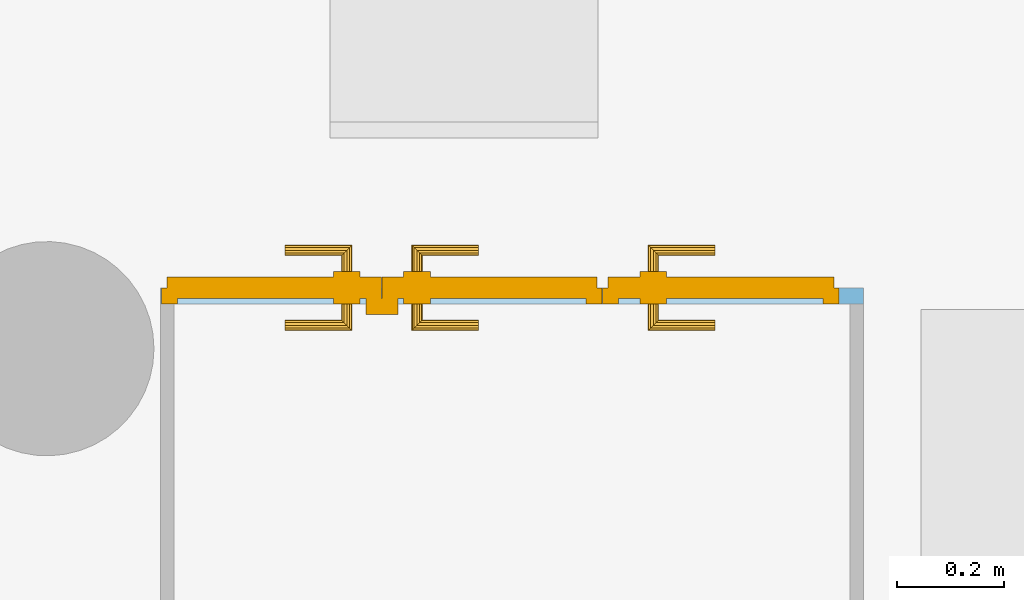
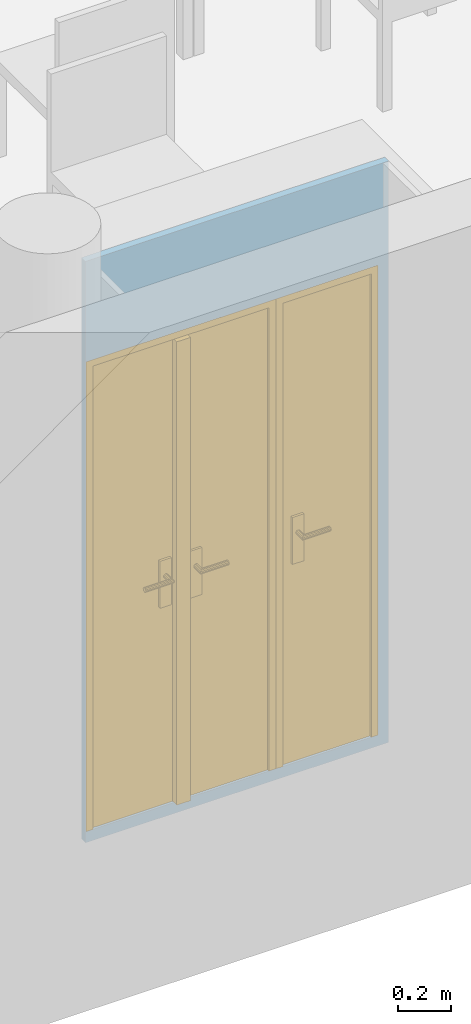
"""IFC4 building model written with IfcOpenShell, lengths in metres."""

from ifc_helpers import new_model, entity, si_unit, converted_unit, derived_unit, frame, frame_2d, origin, origin_with_axes, place, context, subcontext, project, spatial, polyline, rectangle, outline, extrude, faceted_brep, source, transform, mapped, material, layer, layer_set, layer_usage, element, fill, save


model = new_model("IFC4")

# Units and contexts
model_context = context("Model", 3, precision=1e-05, world=origin())
body_context = subcontext(model_context, "Body", "Model", "MODEL_VIEW")
ifc_project = project(units=[si_unit("LENGTHUNIT", "METRE"), si_unit("AREAUNIT", "SQUARE_METRE"), si_unit("VOLUMEUNIT", "CUBIC_METRE"), si_unit("MASSUNIT", "GRAM", prefix="KILO"), converted_unit("PLANEANGLEUNIT", "DEGREE", entity("IfcPlaneAngleMeasure", 0.0174532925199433), si_unit("PLANEANGLEUNIT", "RADIAN"), dimensions=[0, 0, 0, 0, 0, 0, 0]), derived_unit("THERMALTRANSMITTANCEUNIT", [(si_unit("POWERUNIT", "WATT"), 1), (si_unit("THERMODYNAMICTEMPERATUREUNIT", "KELVIN"), -1), (si_unit("LENGTHUNIT", "METRE"), -2)]), derived_unit("VOLUMETRICFLOWRATEUNIT", [(si_unit("LENGTHUNIT", "METRE"), 3), (converted_unit("TIMEUNIT", "hour", entity("IfcTimeMeasure", 3600.0), si_unit("TIMEUNIT", "SECOND"), dimensions=[0, 0, 1, 0, 0, 0, 0]), -1), (si_unit("LENGTHUNIT", "METRE"), -1)])], contexts=[model_context])

# Building, storeys
building_placement = place(None, origin())
building = spatial("IfcBuilding", under=ifc_project, at=building_placement, Name="HABITATGE PLURIFAMILIAR", CompositionType="ELEMENT")
storey_1_placement = place(building_placement, frame((0.0, 0.0, 18.29)))
storey_1 = spatial("IfcBuildingStorey", under=building, at=storey_1_placement, Name="PLANTA CINQUENA", CompositionType="ELEMENT", Elevation=18.29)
storey_2_placement = place(storey_1_placement, frame((0.0, 0.0, 15.28)))
storey_2 = spatial("IfcBuildingStorey", under=storey_1, at=storey_2_placement, Name="NOU", CompositionType="PARTIAL")

# Wall, openings, doors
ifc_material = material()
ifc_layer = layer(ifc_material, 0.03)
ifc_layer_set = layer_set([ifc_layer])
ifc_layer_usage = layer_usage(ifc_layer_set, "AXIS2", "POSITIVE", 0.0)
wall_placement = place(storey_2_placement, frame((407.361610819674, 13.7631365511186, -15.33), z_axis=(0.0, 0.0, 1.0), x_axis=(-1.0, 0.0, 0.0)))
wall = element("IfcWall", 1, at=wall_placement, inside=storey_2, material=ifc_layer_usage, Name="Evans PA", context=body_context, shape_type="SweptSolid", body=[
    extrude(rectangle(XDim=1.31229787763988, YDim=0.03, at=frame_2d((0.656148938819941, 0.015), x_axis=(1.0, 0.0))), origin_with_axes(), (0.0, 0.0, 1.0), 2.66),
])
opening_1_placement = place(wall_placement, frame((0.487834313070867, 0.0, 0.05), z_axis=(0.0, 1.0, 0.0), x_axis=(0.0, 0.0, 1.0)))
opening_1 = element("IfcOpeningElement", 2, at=opening_1_placement, cuts=wall, Name="Vano de puerta PA", ObjectType="Opening", context=body_context, shape_type="SweptSolid", body=[
    extrude(outline(polyline([(2.15, 0.822674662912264), (2.15, 0.0), (0.0, 0.0), (0.0, 0.822674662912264), (2.15, 0.822674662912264)])), origin_with_axes(), (0.0, 0.0, 1.0), 0.03),
])
opening_2_placement = place(wall_placement, frame((0.0452878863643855, 0.0, 0.05), z_axis=(0.0, 1.0, 0.0), x_axis=(0.0, 0.0, 1.0)))
opening_2 = element("IfcOpeningElement", 3, at=opening_2_placement, cuts=wall, Name="Vano de puerta PA", ObjectType="Opening", context=body_context, shape_type="SweptSolid", body=[
    extrude(outline(polyline([(2.15, 0.441930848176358), (2.15, 0.0), (0.0, 0.0), (0.0, 0.441930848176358), (2.15, 0.441930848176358)])), origin_with_axes(), (0.0, 0.0, 1.0), 0.03),
])
shared_shape_1 = source(origin_with_axes(), body_context, "Body", "Brep", [
    faceted_brep([(0.822674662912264, 0.03, 2.15), (0.792674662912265, 0.03, 2.15), (0.792674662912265, 0.03, 0.0), (0.822674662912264, 0.03, 0.0), (0.822674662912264, 0.0, 0.0), (0.792674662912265, 0.0, 0.0), (0.792674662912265, 0.0, 2.15), (0.822674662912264, 0.0, 2.15)], [[[0, 1, 2, 3]], [[4, 5, 6, 7]], [[3, 4, 7, 0]], [[2, 5, 4, 3]], [[1, 6, 5, 2]], [[0, 7, 6, 1]]], orient=[[False], [False], [False], [False], [False], [False]]),
    faceted_brep([(0.03, 0.03, 2.15), (0.0, 0.03, 2.15), (0.0, 0.03, 0.0), (0.03, 0.03, 0.0), (0.03, 0.0, 0.0), (0.0, 0.0, 0.0), (0.0, 0.0, 2.15), (0.03, 0.0, 2.15)], [[[0, 1, 2, 3]], [[4, 5, 6, 7]], [[3, 4, 7, 0]], [[2, 5, 4, 3]], [[1, 6, 5, 2]], [[0, 7, 6, 1]]], orient=[[False], [False], [False], [False], [False], [False]]),
    faceted_brep([(0.792674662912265, 0.03, 2.15), (0.03, 0.03, 2.15), (0.03, 0.03, 2.12), (0.792674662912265, 0.03, 2.12), (0.792674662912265, 0.0, 2.12), (0.03, 0.0, 2.12), (0.03, 0.0, 2.15), (0.792674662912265, 0.0, 2.15)], [[[0, 1, 2, 3]], [[4, 5, 6, 7]], [[3, 4, 7, 0]], [[2, 5, 4, 3]], [[1, 6, 5, 2]], [[0, 7, 6, 1]]], orient=[[False], [False], [False], [False], [False], [False]]),
    faceted_brep([(0.812674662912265, 0.05, 2.14), (0.411837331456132, 0.05, 2.14), (0.411837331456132, 0.05, 0.0), (0.812674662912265, 0.05, 0.0), (0.812674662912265, 0.01, 0.0), (0.411837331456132, 0.01, 0.0), (0.411837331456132, 0.01, 2.14), (0.812674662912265, 0.01, 2.14)], [[[0, 1, 2, 3]], [[4, 5, 6, 7]], [[3, 4, 7, 0]], [[2, 5, 4, 3]], [[1, 6, 5, 2]], [[0, 7, 6, 1]]], orient=[[False], [False], [False], [False], [False], [False]]),
    faceted_brep([(0.441837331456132, 0.01, 2.12), (0.381837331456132, 0.01, 2.12), (0.381837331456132, 0.01, 0.0), (0.441837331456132, 0.01, 0.0), (0.441837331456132, -0.02, 0.0), (0.381837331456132, -0.02, 0.0), (0.381837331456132, -0.02, 2.12), (0.441837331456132, -0.02, 2.12)], [[[0, 1, 2, 3]], [[4, 5, 6, 7]], [[3, 4, 7, 0]], [[2, 5, 4, 3]], [[1, 6, 5, 2]], [[0, 7, 6, 1]]], orient=[[False], [False], [False], [False], [False], [False]]),
    faceted_brep([(0.50183733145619, 0.01, 1.125), (0.451837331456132, 0.01, 1.125), (0.451837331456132, 0.01, 0.91), (0.50183733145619, 0.01, 0.91), (0.50183733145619, 0.0, 0.91), (0.451837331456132, 0.0, 0.91), (0.451837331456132, 0.0, 1.125), (0.50183733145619, 0.0, 1.125)], [[[0, 1, 2, 3]], [[4, 5, 6, 7]], [[3, 4, 7, 0]], [[2, 5, 4, 3]], [[1, 6, 5, 2]], [[0, 7, 6, 1]]], orient=[[False], [False], [False], [False], [False], [False]]),
    faceted_brep([(0.476837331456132, 0.0, 1.06), (0.471837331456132, 0.0, 1.05866025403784), (0.46817707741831, 0.0, 1.055), (0.466837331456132, 0.0, 1.05), (0.46817707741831, 0.0, 1.045), (0.471837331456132, 0.0, 1.04133974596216), (0.476837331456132, 0.0, 1.04), (0.481837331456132, 0.0, 1.04133974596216), (0.485497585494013, 0.0, 1.045), (0.486837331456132, 0.0, 1.05), (0.485497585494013, 0.0, 1.055), (0.481837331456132, 0.0, 1.05866025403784), (0.476837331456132, -0.04, 1.06), (0.471837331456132, -0.045, 1.05866025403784), (0.46817707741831, -0.0486602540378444, 1.055), (0.466837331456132, -0.05, 1.05), (0.46817707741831, -0.0486602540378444, 1.045), (0.471837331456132, -0.045, 1.04133974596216), (0.476837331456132, -0.04, 1.04), (0.481837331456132, -0.035, 1.04133974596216), (0.485497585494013, -0.0313397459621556, 1.045), (0.486837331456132, -0.03, 1.05), (0.485497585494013, -0.0313397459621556, 1.055), (0.481837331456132, -0.035, 1.05866025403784), (0.59183733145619, -0.04, 1.06), (0.59183733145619, -0.035, 1.05866025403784), (0.59183733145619, -0.0313397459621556, 1.055), (0.59183733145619, -0.03, 1.05), (0.59183733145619, -0.0313397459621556, 1.045), (0.59183733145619, -0.035, 1.04133974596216), (0.59183733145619, -0.04, 1.04), (0.59183733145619, -0.045, 1.04133974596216), (0.59183733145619, -0.0486602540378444, 1.045), (0.59183733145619, -0.05, 1.05), (0.59183733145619, -0.0486602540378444, 1.055), (0.59183733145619, -0.045, 1.05866025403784)], [[[0, 1, 2, 3, 4, 5, 6, 7, 8, 9, 10, 11]], [[0, 12, 13, 1]], [[1, 13, 14, 2]], [[2, 14, 15, 3]], [[3, 15, 16, 4]], [[4, 16, 17, 5]], [[5, 17, 18, 6]], [[6, 18, 19, 7]], [[7, 19, 20, 8]], [[8, 20, 21, 9]], [[9, 21, 22, 10]], [[10, 22, 23, 11]], [[11, 23, 12, 0]], [[24, 25, 26, 27, 28, 29, 30, 31, 32, 33, 34, 35]], [[12, 24, 35, 13]], [[13, 35, 34, 14]], [[14, 34, 33, 15]], [[15, 33, 32, 16]], [[16, 32, 31, 17]], [[17, 31, 30, 18]], [[18, 30, 29, 19]], [[19, 29, 28, 20]], [[20, 28, 27, 21]], [[21, 27, 26, 22]], [[22, 26, 25, 23]], [[23, 25, 24, 12]]], orient=[[False], [False], [False], [False], [False], [False], [False], [False], [False], [False], [False], [False], [False], [False], [False], [False], [False], [False], [False], [False], [False], [False], [False], [False], [False], [False]]),
    faceted_brep([(0.50183733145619, 0.05, 1.125), (0.50183733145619, 0.05, 0.91), (0.451837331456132, 0.05, 0.91), (0.451837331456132, 0.05, 1.125), (0.50183733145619, 0.06, 0.91), (0.50183733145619, 0.06, 1.125), (0.451837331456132, 0.06, 1.125), (0.451837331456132, 0.06, 0.91)], [[[0, 1, 2, 3]], [[4, 5, 6, 7]], [[1, 0, 5, 4]], [[2, 1, 4, 7]], [[3, 2, 7, 6]], [[0, 3, 6, 5]]], orient=[[False], [False], [False], [False], [False], [False]]),
    faceted_brep([(0.476837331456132, 0.06, 1.06), (0.481837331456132, 0.06, 1.05866025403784), (0.485497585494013, 0.06, 1.055), (0.486837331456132, 0.06, 1.05), (0.485497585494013, 0.06, 1.045), (0.481837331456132, 0.06, 1.04133974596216), (0.476837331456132, 0.06, 1.04), (0.471837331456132, 0.06, 1.04133974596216), (0.46817707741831, 0.06, 1.045), (0.466837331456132, 0.06, 1.05), (0.46817707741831, 0.06, 1.055), (0.471837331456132, 0.06, 1.05866025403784), (0.471837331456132, 0.105, 1.05866025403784), (0.476837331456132, 0.1, 1.06), (0.46817707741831, 0.108660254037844, 1.055), (0.466837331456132, 0.11, 1.05), (0.46817707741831, 0.108660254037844, 1.045), (0.471837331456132, 0.105, 1.04133974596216), (0.476837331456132, 0.1, 1.04), (0.481837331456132, 0.095, 1.04133974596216), (0.485497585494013, 0.0913397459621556, 1.045), (0.486837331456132, 0.09, 1.05), (0.485497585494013, 0.0913397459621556, 1.055), (0.481837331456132, 0.095, 1.05866025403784), (0.59183733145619, 0.1, 1.06), (0.59183733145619, 0.105, 1.05866025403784), (0.59183733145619, 0.108660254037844, 1.055), (0.59183733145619, 0.11, 1.05), (0.59183733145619, 0.108660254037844, 1.045), (0.59183733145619, 0.105, 1.04133974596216), (0.59183733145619, 0.1, 1.04), (0.59183733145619, 0.095, 1.04133974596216), (0.59183733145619, 0.0913397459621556, 1.045), (0.59183733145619, 0.09, 1.05), (0.59183733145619, 0.0913397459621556, 1.055), (0.59183733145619, 0.095, 1.05866025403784)], [[[0, 1, 2, 3, 4, 5, 6, 7, 8, 9, 10, 11]], [[0, 11, 12, 13]], [[11, 10, 14, 12]], [[10, 9, 15, 14]], [[9, 8, 16, 15]], [[8, 7, 17, 16]], [[7, 6, 18, 17]], [[6, 5, 19, 18]], [[5, 4, 20, 19]], [[4, 3, 21, 20]], [[3, 2, 22, 21]], [[2, 1, 23, 22]], [[1, 0, 13, 23]], [[24, 25, 26, 27, 28, 29, 30, 31, 32, 33, 34, 35]], [[13, 12, 25, 24]], [[12, 14, 26, 25]], [[14, 15, 27, 26]], [[15, 16, 28, 27]], [[16, 17, 29, 28]], [[17, 18, 30, 29]], [[18, 19, 31, 30]], [[19, 20, 32, 31]], [[20, 21, 33, 32]], [[21, 22, 34, 33]], [[22, 23, 35, 34]], [[23, 13, 24, 35]]], orient=[[False], [False], [False], [False], [False], [False], [False], [False], [False], [False], [False], [False], [False], [False], [False], [False], [False], [False], [False], [False], [False], [False], [False], [False], [False], [False]]),
    faceted_brep([(0.410837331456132, 0.05, 2.14), (0.01, 0.05, 2.14), (0.01, 0.05, 0.0), (0.410837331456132, 0.05, 0.0), (0.410837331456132, 0.01, 0.0), (0.01, 0.01, 0.0), (0.01, 0.01, 2.14), (0.410837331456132, 0.01, 2.14)], [[[0, 1, 2, 3]], [[4, 5, 6, 7]], [[3, 4, 7, 0]], [[2, 5, 4, 3]], [[1, 6, 5, 2]], [[0, 7, 6, 1]]], orient=[[False], [False], [False], [False], [False], [False]]),
    faceted_brep([(0.370837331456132, 0.01, 1.125), (0.320837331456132, 0.01, 1.125), (0.320837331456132, 0.01, 0.91), (0.370837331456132, 0.01, 0.91), (0.370837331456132, 0.0, 0.91), (0.320837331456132, 0.0, 0.91), (0.320837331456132, 0.0, 1.125), (0.370837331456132, 0.0, 1.125)], [[[0, 1, 2, 3]], [[4, 5, 6, 7]], [[3, 4, 7, 0]], [[2, 5, 4, 3]], [[1, 6, 5, 2]], [[0, 7, 6, 1]]], orient=[[False], [False], [False], [False], [False], [False]]),
    faceted_brep([(0.345837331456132, 0.0, 1.06), (0.340837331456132, 0.0, 1.05866025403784), (0.337177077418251, 0.0, 1.055), (0.335837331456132, 0.0, 1.05), (0.337177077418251, 0.0, 1.045), (0.340837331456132, 0.0, 1.04133974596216), (0.345837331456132, 0.0, 1.04), (0.350837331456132, 0.0, 1.04133974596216), (0.354497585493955, 0.0, 1.045), (0.355837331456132, 0.0, 1.05), (0.354497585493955, 0.0, 1.055), (0.350837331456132, 0.0, 1.05866025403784), (0.350837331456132, -0.045, 1.05866025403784), (0.345837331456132, -0.04, 1.06), (0.354497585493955, -0.0486602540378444, 1.055), (0.355837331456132, -0.05, 1.05), (0.354497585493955, -0.0486602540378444, 1.045), (0.350837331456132, -0.045, 1.04133974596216), (0.345837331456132, -0.04, 1.04), (0.340837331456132, -0.035, 1.04133974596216), (0.337177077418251, -0.0313397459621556, 1.045), (0.335837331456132, -0.03, 1.05), (0.337177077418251, -0.0313397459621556, 1.055), (0.340837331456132, -0.035, 1.05866025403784), (0.230837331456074, -0.04, 1.06), (0.230837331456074, -0.045, 1.05866025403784), (0.230837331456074, -0.0486602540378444, 1.055), (0.230837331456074, -0.05, 1.05), (0.230837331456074, -0.0486602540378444, 1.045), (0.230837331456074, -0.045, 1.04133974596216), (0.230837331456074, -0.04, 1.04), (0.230837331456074, -0.035, 1.04133974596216), (0.230837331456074, -0.0313397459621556, 1.045), (0.230837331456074, -0.03, 1.05), (0.230837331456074, -0.0313397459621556, 1.055), (0.230837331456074, -0.035, 1.05866025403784)], [[[0, 1, 2, 3, 4, 5, 6, 7, 8, 9, 10, 11]], [[0, 11, 12, 13]], [[11, 10, 14, 12]], [[10, 9, 15, 14]], [[9, 8, 16, 15]], [[8, 7, 17, 16]], [[7, 6, 18, 17]], [[6, 5, 19, 18]], [[5, 4, 20, 19]], [[4, 3, 21, 20]], [[3, 2, 22, 21]], [[2, 1, 23, 22]], [[1, 0, 13, 23]], [[24, 25, 26, 27, 28, 29, 30, 31, 32, 33, 34, 35]], [[13, 12, 25, 24]], [[12, 14, 26, 25]], [[14, 15, 27, 26]], [[15, 16, 28, 27]], [[16, 17, 29, 28]], [[17, 18, 30, 29]], [[18, 19, 31, 30]], [[19, 20, 32, 31]], [[20, 21, 33, 32]], [[21, 22, 34, 33]], [[22, 23, 35, 34]], [[23, 13, 24, 35]]], orient=[[False], [False], [False], [False], [False], [False], [False], [False], [False], [False], [False], [False], [False], [False], [False], [False], [False], [False], [False], [False], [False], [False], [False], [False], [False], [False]]),
    faceted_brep([(0.370837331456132, 0.05, 1.125), (0.370837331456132, 0.05, 0.91), (0.320837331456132, 0.05, 0.91), (0.320837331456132, 0.05, 1.125), (0.370837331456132, 0.06, 0.91), (0.370837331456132, 0.06, 1.125), (0.320837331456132, 0.06, 1.125), (0.320837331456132, 0.06, 0.91)], [[[0, 1, 2, 3]], [[4, 5, 6, 7]], [[1, 0, 5, 4]], [[2, 1, 4, 7]], [[3, 2, 7, 6]], [[0, 3, 6, 5]]], orient=[[False], [False], [False], [False], [False], [False]]),
    faceted_brep([(0.345837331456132, 0.06, 1.06), (0.350837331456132, 0.06, 1.05866025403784), (0.354497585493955, 0.06, 1.055), (0.355837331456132, 0.06, 1.05), (0.354497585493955, 0.06, 1.045), (0.350837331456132, 0.06, 1.04133974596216), (0.345837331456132, 0.06, 1.04), (0.340837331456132, 0.06, 1.04133974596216), (0.337177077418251, 0.06, 1.045), (0.335837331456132, 0.06, 1.05), (0.337177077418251, 0.06, 1.055), (0.340837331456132, 0.06, 1.05866025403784), (0.345837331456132, 0.1, 1.06), (0.350837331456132, 0.105, 1.05866025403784), (0.354497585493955, 0.108660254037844, 1.055), (0.355837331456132, 0.11, 1.05), (0.354497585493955, 0.108660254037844, 1.045), (0.350837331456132, 0.105, 1.04133974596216), (0.345837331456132, 0.1, 1.04), (0.340837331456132, 0.095, 1.04133974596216), (0.337177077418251, 0.0913397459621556, 1.045), (0.335837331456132, 0.09, 1.05), (0.337177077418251, 0.0913397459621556, 1.055), (0.340837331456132, 0.095, 1.05866025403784), (0.230837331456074, 0.1, 1.06), (0.230837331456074, 0.095, 1.05866025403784), (0.230837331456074, 0.0913397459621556, 1.055), (0.230837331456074, 0.09, 1.05), (0.230837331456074, 0.0913397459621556, 1.045), (0.230837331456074, 0.095, 1.04133974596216), (0.230837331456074, 0.1, 1.04), (0.230837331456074, 0.105, 1.04133974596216), (0.230837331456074, 0.108660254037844, 1.045), (0.230837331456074, 0.11, 1.05), (0.230837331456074, 0.108660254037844, 1.055), (0.230837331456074, 0.105, 1.05866025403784)], [[[0, 1, 2, 3, 4, 5, 6, 7, 8, 9, 10, 11]], [[0, 12, 13, 1]], [[1, 13, 14, 2]], [[2, 14, 15, 3]], [[3, 15, 16, 4]], [[4, 16, 17, 5]], [[5, 17, 18, 6]], [[6, 18, 19, 7]], [[7, 19, 20, 8]], [[8, 20, 21, 9]], [[9, 21, 22, 10]], [[10, 22, 23, 11]], [[11, 23, 12, 0]], [[24, 25, 26, 27, 28, 29, 30, 31, 32, 33, 34, 35]], [[12, 24, 35, 13]], [[13, 35, 34, 14]], [[14, 34, 33, 15]], [[15, 33, 32, 16]], [[16, 32, 31, 17]], [[17, 31, 30, 18]], [[18, 30, 29, 19]], [[19, 29, 28, 20]], [[20, 28, 27, 21]], [[21, 27, 26, 22]], [[22, 26, 25, 23]], [[23, 25, 24, 12]]], orient=[[False], [False], [False], [False], [False], [False], [False], [False], [False], [False], [False], [False], [False], [False], [False], [False], [False], [False], [False], [False], [False], [False], [False], [False], [False], [False]]),
])
door_1_placement = place(opening_1_placement, frame((0.0, 0.822674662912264, 0.03), z_axis=(1.0, 0.0, 0.0), x_axis=(0.0, -1.0, 0.0)))
door_1 = element("IfcDoor", 4, at=door_1_placement, inside=storey_2, Name="Porta PA", OperationType="USERDEFINED", OverallHeight=2.15, OverallWidth=0.82267, PredefinedType="DOOR", context=body_context, shape_type="MappedRepresentation", body=[
    mapped(shared_shape_1, transform((0.0, 0.0, 0.0), x_axis=(1.0, 0.0, 0.0), y_axis=(0.0, 1.0, 0.0), z_axis=(0.0, 0.0, 1.0), scale=1.0)),
])
fill(opening_1, door_1)
shared_shape_2 = source(origin_with_axes(), body_context, "Body", "Brep", [
    faceted_brep([(0.0, 0.03, 2.15), (0.0, 0.03, 0.0), (0.03, 0.03, 0.0), (0.03, 0.03, 2.15), (0.0, 0.0, 0.0), (0.0, 0.0, 2.15), (0.03, 0.0, 2.15), (0.03, 0.0, 0.0)], [[[0, 1, 2, 3]], [[4, 5, 6, 7]], [[1, 0, 5, 4]], [[2, 1, 4, 7]], [[3, 2, 7, 6]], [[0, 3, 6, 5]]], orient=[[False], [False], [False], [False], [False], [False]]),
    faceted_brep([(0.411930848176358, 0.03, 2.15), (0.411930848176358, 0.03, 0.0), (0.441930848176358, 0.03, 0.0), (0.441930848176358, 0.03, 2.15), (0.411930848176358, 0.0, 0.0), (0.411930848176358, 0.0, 2.15), (0.441930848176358, 0.0, 2.15), (0.441930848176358, 0.0, 0.0)], [[[0, 1, 2, 3]], [[4, 5, 6, 7]], [[1, 0, 5, 4]], [[2, 1, 4, 7]], [[3, 2, 7, 6]], [[0, 3, 6, 5]]], orient=[[False], [False], [False], [False], [False], [False]]),
    faceted_brep([(0.03, 0.03, 2.15), (0.03, 0.03, 2.12), (0.411930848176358, 0.03, 2.12), (0.411930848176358, 0.03, 2.15), (0.03, 0.0, 2.12), (0.03, 0.0, 2.15), (0.411930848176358, 0.0, 2.15), (0.411930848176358, 0.0, 2.12)], [[[0, 1, 2, 3]], [[4, 5, 6, 7]], [[1, 0, 5, 4]], [[2, 1, 4, 7]], [[3, 2, 7, 6]], [[0, 3, 6, 5]]], orient=[[False], [False], [False], [False], [False], [False]]),
    faceted_brep([(0.01, 0.05, 2.14), (0.01, 0.05, 0.0), (0.431930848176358, 0.05, 0.0), (0.431930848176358, 0.05, 2.14), (0.01, 0.01, 0.0), (0.01, 0.01, 2.14), (0.431930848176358, 0.01, 2.14), (0.431930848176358, 0.01, 0.0)], [[[0, 1, 2, 3]], [[4, 5, 6, 7]], [[1, 0, 5, 4]], [[2, 1, 4, 7]], [[3, 2, 7, 6]], [[0, 3, 6, 5]]], orient=[[False], [False], [False], [False], [False], [False]]),
    faceted_brep([(0.0700000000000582, 0.01, 1.125), (0.0700000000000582, 0.01, 0.91), (0.120000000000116, 0.01, 0.91), (0.120000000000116, 0.01, 1.125), (0.0700000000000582, 0.0, 0.91), (0.0700000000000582, 0.0, 1.125), (0.120000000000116, 0.0, 1.125), (0.120000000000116, 0.0, 0.91)], [[[0, 1, 2, 3]], [[4, 5, 6, 7]], [[1, 0, 5, 4]], [[2, 1, 4, 7]], [[3, 2, 7, 6]], [[0, 3, 6, 5]]], orient=[[False], [False], [False], [False], [False], [False]]),
    faceted_brep([(0.0950000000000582, 0.0, 1.06), (0.0900000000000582, 0.0, 1.05866025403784), (0.0863397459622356, 0.0, 1.055), (0.0850000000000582, 0.0, 1.05), (0.0863397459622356, 0.0, 1.045), (0.0900000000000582, 0.0, 1.04133974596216), (0.0950000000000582, 0.0, 1.04), (0.100000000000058, 0.0, 1.04133974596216), (0.103660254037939, 0.0, 1.045), (0.105000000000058, 0.0, 1.05), (0.103660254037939, 0.0, 1.055), (0.100000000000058, 0.0, 1.05866025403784), (0.0950000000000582, -0.04, 1.06), (0.0900000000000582, -0.045, 1.05866025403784), (0.0863397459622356, -0.0486602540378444, 1.055), (0.0850000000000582, -0.05, 1.05), (0.0863397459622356, -0.0486602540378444, 1.045), (0.0900000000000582, -0.045, 1.04133974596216), (0.0950000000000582, -0.04, 1.04), (0.100000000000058, -0.035, 1.04133974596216), (0.103660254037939, -0.0313397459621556, 1.045), (0.105000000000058, -0.03, 1.05), (0.103660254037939, -0.0313397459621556, 1.055), (0.100000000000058, -0.035, 1.05866025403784), (0.210000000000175, -0.04, 1.06), (0.210000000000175, -0.035, 1.05866025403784), (0.210000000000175, -0.0313397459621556, 1.055), (0.210000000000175, -0.03, 1.05), (0.210000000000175, -0.0313397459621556, 1.045), (0.210000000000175, -0.035, 1.04133974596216), (0.210000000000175, -0.04, 1.04), (0.210000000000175, -0.045, 1.04133974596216), (0.210000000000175, -0.0486602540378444, 1.045), (0.210000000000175, -0.05, 1.05), (0.210000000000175, -0.0486602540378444, 1.055), (0.210000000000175, -0.045, 1.05866025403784)], [[[0, 1, 2, 3, 4, 5, 6, 7, 8, 9, 10, 11]], [[0, 12, 13, 1]], [[1, 13, 14, 2]], [[2, 14, 15, 3]], [[3, 15, 16, 4]], [[4, 16, 17, 5]], [[5, 17, 18, 6]], [[6, 18, 19, 7]], [[7, 19, 20, 8]], [[8, 20, 21, 9]], [[9, 21, 22, 10]], [[10, 22, 23, 11]], [[11, 23, 12, 0]], [[24, 25, 26, 27, 28, 29, 30, 31, 32, 33, 34, 35]], [[12, 24, 35, 13]], [[13, 35, 34, 14]], [[14, 34, 33, 15]], [[15, 33, 32, 16]], [[16, 32, 31, 17]], [[17, 31, 30, 18]], [[18, 30, 29, 19]], [[19, 29, 28, 20]], [[20, 28, 27, 21]], [[21, 27, 26, 22]], [[22, 26, 25, 23]], [[23, 25, 24, 12]]], orient=[[False], [False], [False], [False], [False], [False], [False], [False], [False], [False], [False], [False], [False], [False], [False], [False], [False], [False], [False], [False], [False], [False], [False], [False], [False], [False]]),
    faceted_brep([(0.0700000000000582, 0.05, 1.125), (0.120000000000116, 0.05, 1.125), (0.120000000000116, 0.05, 0.91), (0.0700000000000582, 0.05, 0.91), (0.0700000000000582, 0.06, 0.91), (0.120000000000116, 0.06, 0.91), (0.120000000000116, 0.06, 1.125), (0.0700000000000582, 0.06, 1.125)], [[[0, 1, 2, 3]], [[4, 5, 6, 7]], [[3, 4, 7, 0]], [[2, 5, 4, 3]], [[1, 6, 5, 2]], [[0, 7, 6, 1]]], orient=[[False], [False], [False], [False], [False], [False]]),
    faceted_brep([(0.0950000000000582, 0.06, 1.06), (0.100000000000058, 0.06, 1.05866025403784), (0.103660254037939, 0.06, 1.055), (0.105000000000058, 0.06, 1.05), (0.103660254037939, 0.06, 1.045), (0.100000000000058, 0.06, 1.04133974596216), (0.0950000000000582, 0.06, 1.04), (0.0900000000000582, 0.06, 1.04133974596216), (0.0863397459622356, 0.06, 1.045), (0.0850000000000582, 0.06, 1.05), (0.0863397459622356, 0.06, 1.055), (0.0900000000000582, 0.06, 1.05866025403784), (0.0900000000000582, 0.105, 1.05866025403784), (0.0950000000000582, 0.1, 1.06), (0.0863397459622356, 0.108660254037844, 1.055), (0.0850000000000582, 0.11, 1.05), (0.0863397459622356, 0.108660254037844, 1.045), (0.0900000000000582, 0.105, 1.04133974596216), (0.0950000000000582, 0.1, 1.04), (0.100000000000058, 0.095, 1.04133974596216), (0.103660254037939, 0.0913397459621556, 1.045), (0.105000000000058, 0.09, 1.05), (0.103660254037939, 0.0913397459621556, 1.055), (0.100000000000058, 0.095, 1.05866025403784), (0.210000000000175, 0.1, 1.06), (0.210000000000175, 0.105, 1.05866025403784), (0.210000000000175, 0.108660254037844, 1.055), (0.210000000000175, 0.11, 1.05), (0.210000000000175, 0.108660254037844, 1.045), (0.210000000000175, 0.105, 1.04133974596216), (0.210000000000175, 0.1, 1.04), (0.210000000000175, 0.095, 1.04133974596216), (0.210000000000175, 0.0913397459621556, 1.045), (0.210000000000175, 0.09, 1.05), (0.210000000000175, 0.0913397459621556, 1.055), (0.210000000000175, 0.095, 1.05866025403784)], [[[0, 1, 2, 3, 4, 5, 6, 7, 8, 9, 10, 11]], [[0, 11, 12, 13]], [[11, 10, 14, 12]], [[10, 9, 15, 14]], [[9, 8, 16, 15]], [[8, 7, 17, 16]], [[7, 6, 18, 17]], [[6, 5, 19, 18]], [[5, 4, 20, 19]], [[4, 3, 21, 20]], [[3, 2, 22, 21]], [[2, 1, 23, 22]], [[1, 0, 13, 23]], [[24, 25, 26, 27, 28, 29, 30, 31, 32, 33, 34, 35]], [[13, 12, 25, 24]], [[12, 14, 26, 25]], [[14, 15, 27, 26]], [[15, 16, 28, 27]], [[16, 17, 29, 28]], [[17, 18, 30, 29]], [[18, 19, 31, 30]], [[19, 20, 32, 31]], [[20, 21, 33, 32]], [[21, 22, 34, 33]], [[22, 23, 35, 34]], [[23, 13, 24, 35]]], orient=[[False], [False], [False], [False], [False], [False], [False], [False], [False], [False], [False], [False], [False], [False], [False], [False], [False], [False], [False], [False], [False], [False], [False], [False], [False], [False]]),
])
door_2_placement = place(opening_2_placement, frame((0.0, 0.441930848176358, 0.03), z_axis=(1.0, 0.0, 0.0), x_axis=(0.0, -1.0, 0.0)))
door_2 = element("IfcDoor", 5, at=door_2_placement, inside=storey_2, Name="Porta P4", OperationType="USERDEFINED", OverallHeight=2.15, OverallWidth=0.44193, PredefinedType="DOOR", context=body_context, shape_type="MappedRepresentation", body=[
    mapped(shared_shape_2, transform((0.0, 0.0, 0.0), x_axis=(1.0, 0.0, 0.0), y_axis=(0.0, 1.0, 0.0), z_axis=(0.0, 0.0, 1.0), scale=1.0)),
])
fill(opening_2, door_2)

save(model, "model.ifc")
